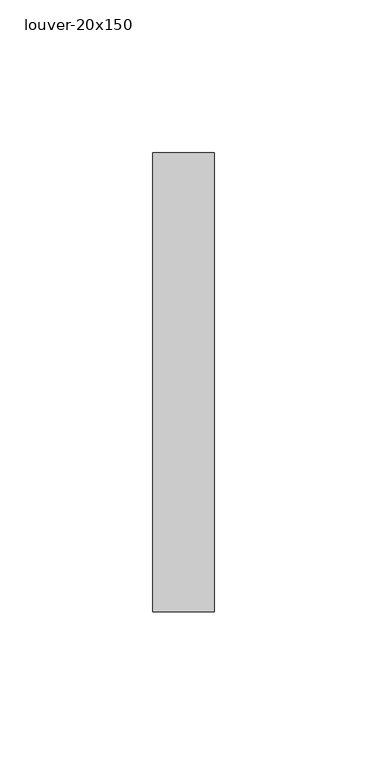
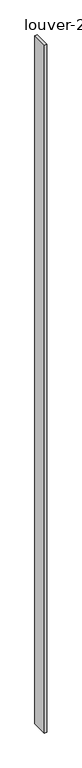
"""IFC4 building model written with IfcOpenShell, lengths in millimetres: member geometry, 長方形マリオン : louver-20x150."""

from ifc_helpers import new_model, si_unit, frame, origin, place, context, project, spatial, polyline, outline, extrude, source, transform, mapped, element, save


def louver_20x150_e3eb93e8(model_context):
    return source(origin(), model_context, "Body", "SweptSolid", [
        extrude(outline(polyline([(10.0, 75.0), (10.0, -75.0), (-10.0, -75.0), (-10.0, 75.0), (10.0, 75.0)])), frame((0.0, 0.0, -6627.7094086), z_axis=(0.0, 0.0, 1.0), x_axis=(1.0, 0.0, 0.0)), (0.0, 0.0, 1.0), 6627.7094086),
    ])


if __name__ == "__main__":
    model = new_model("IFC4")
    model_context = context("Model", 3, world=origin())
    ifc_project = project(units=[si_unit("LENGTHUNIT", "METRE", prefix="MILLI")], contexts=[model_context])
    site = spatial("IfcSite", under=ifc_project)
    building = spatial("IfcBuilding", under=site)
    placement = place(None, origin())
    louver_20x150_shape = louver_20x150_e3eb93e8(model_context)
    element("IfcMember", 1, ObjectType="長方形マリオン : louver-20x150", at=placement, inside=building, context=model_context, shape_type="MappedRepresentation", body=[
        mapped(louver_20x150_shape, transform((0.0, 0.0, 0.0), x_axis=(1.0, 0.0, 0.0), y_axis=(0.0, 1.0, 0.0), z_axis=(0.0, 0.0, 1.0))),
    ])
    save(model, "model.ifc")
